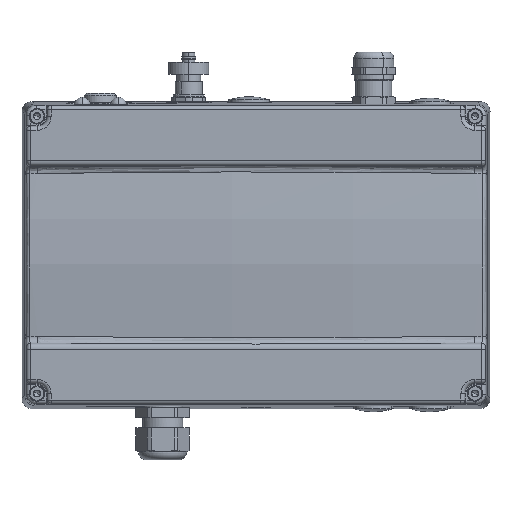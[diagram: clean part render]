
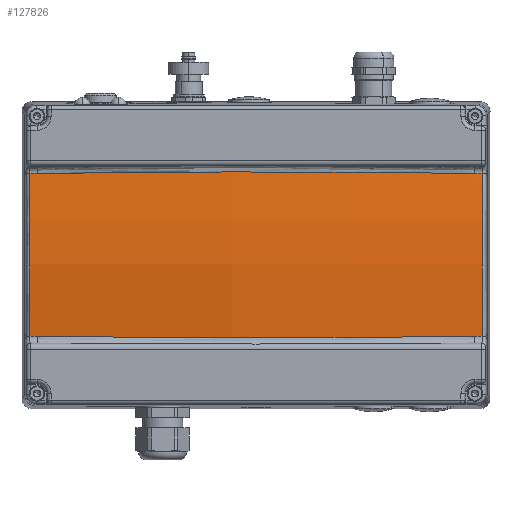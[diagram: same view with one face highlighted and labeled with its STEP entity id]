
A CAD part, top view. The second image highlights one B-rep face of the part: STEP entity #127826.
In plain terms, the highlighted toroidal (fillet/blend) face has major radius 1703.24 mm and minor radius 300 mm.
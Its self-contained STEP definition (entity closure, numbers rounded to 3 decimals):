
#127745=AXIS2_PLACEMENT_3D('Circle Axis2P3D',#127743,#127744,$) ;
#127758=AXIS2_PLACEMENT_3D('Torus Axis2P3D',#127755,#127756,#127757) ;
#127773=AXIS2_PLACEMENT_3D('Circle Axis2P3D',#127771,#127772,$) ;
#127799=AXIS2_PLACEMENT_3D('Circle Axis2P3D',#127797,#127798,$) ;
#127813=AXIS2_PLACEMENT_3D('Circle Axis2P3D',#127811,#127812,$) ;
#127672=CARTESIAN_POINT('Vertex',(-225.157,40.594,75.032)) ;
#127676=CARTESIAN_POINT('Control Point',(-225.157,40.594,75.032)) ;
#127677=CARTESIAN_POINT('Control Point',(-223.825,40.594,75.104)) ;
#127678=CARTESIAN_POINT('Control Point',(-222.493,40.595,75.176)) ;
#127679=CARTESIAN_POINT('Control Point',(-221.161,40.597,75.246)) ;
#127680=CARTESIAN_POINT('Control Point',(-215.558,40.61,75.535)) ;
#127681=CARTESIAN_POINT('Control Point',(-209.954,40.638,75.802)) ;
#127682=CARTESIAN_POINT('Control Point',(-205.682,40.667,75.993)) ;
#127683=CARTESIAN_POINT('Control Point',(-195.001,40.75,76.441)) ;
#127684=CARTESIAN_POINT('Control Point',(-184.318,40.857,76.815)) ;
#127685=CARTESIAN_POINT('Control Point',(-177.907,40.923,77.013)) ;
#127686=CARTESIAN_POINT('Control Point',(-165.084,41.054,77.358)) ;
#127687=CARTESIAN_POINT('Control Point',(-152.26,41.166,77.602)) ;
#127688=CARTESIAN_POINT('Control Point',(-145.847,41.214,77.7)) ;
#127689=CARTESIAN_POINT('Control Point',(-133.021,41.289,77.847)) ;
#127690=CARTESIAN_POINT('Control Point',(-120.195,41.317,77.897)) ;
#127691=CARTESIAN_POINT('Control Point',(-113.782,41.318,77.899)) ;
#127692=CARTESIAN_POINT('Control Point',(-100.956,41.293,77.854)) ;
#127693=CARTESIAN_POINT('Control Point',(-88.131,41.221,77.713)) ;
#127694=CARTESIAN_POINT('Control Point',(-81.719,41.174,77.618)) ;
#127695=CARTESIAN_POINT('Control Point',(-68.896,41.063,77.38)) ;
#127696=CARTESIAN_POINT('Control Point',(-56.075,40.933,77.041)) ;
#127697=CARTESIAN_POINT('Control Point',(-49.665,40.867,76.846)) ;
#127698=CARTESIAN_POINT('Control Point',(-37.454,40.744,76.426)) ;
#127699=CARTESIAN_POINT('Control Point',(-25.244,40.65,75.908)) ;
#127700=CARTESIAN_POINT('Control Point',(-19.443,40.615,75.639)) ;
#127701=CARTESIAN_POINT('Control Point',(-13.642,40.594,75.347)) ;
#127702=CARTESIAN_POINT('Control Point',(-7.842,40.594,75.032)) ;
#127703=CARTESIAN_POINT('Vertex',(-7.842,40.594,75.032)) ;
#127733=CARTESIAN_POINT('Vertex',(-3.909,40.594,74.814)) ;
#127743=CARTESIAN_POINT('Axis2P3D Location',(-116.5,40.594,-1922.5)) ;
#127755=CARTESIAN_POINT('Axis2P3D Location',(-116.5,0.,-1922.5)) ;
#127761=CARTESIAN_POINT('Control Point',(-229.091,-40.594,74.814)) ;
#127762=CARTESIAN_POINT('Control Point',(-228.996,-20.423,77.579)) ;
#127763=CARTESIAN_POINT('Control Point',(-228.963,0.,78.512)) ;
#127764=CARTESIAN_POINT('Control Point',(-228.996,20.423,77.579)) ;
#127765=CARTESIAN_POINT('Control Point',(-229.091,40.594,74.814)) ;
#127766=CARTESIAN_POINT('Vertex',(-229.091,40.594,74.814)) ;
#127768=CARTESIAN_POINT('Vertex',(-229.091,-40.594,74.814)) ;
#127771=CARTESIAN_POINT('Axis2P3D Location',(-116.5,-40.594,-1922.5)) ;
#127775=CARTESIAN_POINT('Vertex',(-225.157,-40.594,75.032)) ;
#127779=CARTESIAN_POINT('Control Point',(-225.157,-40.594,75.032)) ;
#127780=CARTESIAN_POINT('Control Point',(-213.147,-40.594,75.685)) ;
#127781=CARTESIAN_POINT('Control Point',(-201.134,-40.682,76.236)) ;
#127782=CARTESIAN_POINT('Control Point',(-189.119,-40.805,76.692)) ;
#127783=CARTESIAN_POINT('Control Point',(-164.279,-41.074,77.445)) ;
#127784=CARTESIAN_POINT('Control Point',(-139.435,-41.274,77.822)) ;
#127785=CARTESIAN_POINT('Control Point',(-126.608,-41.331,77.92)) ;
#127786=CARTESIAN_POINT('Control Point',(-107.369,-41.329,77.925)) ;
#127787=CARTESIAN_POINT('Control Point',(-88.131,-41.221,77.713)) ;
#127788=CARTESIAN_POINT('Control Point',(-81.719,-41.174,77.618)) ;
#127789=CARTESIAN_POINT('Control Point',(-63.092,-41.013,77.272)) ;
#127790=CARTESIAN_POINT('Control Point',(-44.469,-40.811,76.714)) ;
#127791=CARTESIAN_POINT('Control Point',(-32.258,-40.685,76.254)) ;
#127792=CARTESIAN_POINT('Control Point',(-20.048,-40.594,75.696)) ;
#127793=CARTESIAN_POINT('Control Point',(-7.842,-40.594,75.032)) ;
#127794=CARTESIAN_POINT('Vertex',(-7.842,-40.594,75.032)) ;
#127797=CARTESIAN_POINT('Axis2P3D Location',(-116.5,-40.594,-1922.5)) ;
#127801=CARTESIAN_POINT('Vertex',(-3.909,-40.594,74.814)) ;
#127805=CARTESIAN_POINT('Control Point',(-3.909,-40.594,74.814)) ;
#127806=CARTESIAN_POINT('Control Point',(-4.004,-20.423,77.579)) ;
#127807=CARTESIAN_POINT('Control Point',(-4.037,0.,78.512)) ;
#127808=CARTESIAN_POINT('Control Point',(-4.004,20.423,77.579)) ;
#127809=CARTESIAN_POINT('Control Point',(-3.909,40.594,74.814)) ;
#127811=CARTESIAN_POINT('Axis2P3D Location',(-116.5,40.594,-1922.5)) ;
#127744=DIRECTION('Axis2P3D Direction',(0.,1.,0.)) ;
#127756=DIRECTION('Axis2P3D Direction',(0.,1.,0.)) ;
#127757=DIRECTION('Axis2P3D XDirection',(-0.058,0.,0.998)) ;
#127772=DIRECTION('Axis2P3D Direction',(0.,1.,-0.)) ;
#127798=DIRECTION('Axis2P3D Direction',(0.,1.,-0.)) ;
#127812=DIRECTION('Axis2P3D Direction',(0.,1.,-0.)) ;
#127817=ORIENTED_EDGE('',*,*,#127770,.T.) ;
#127818=ORIENTED_EDGE('',*,*,#127777,.F.) ;
#127819=ORIENTED_EDGE('',*,*,#127796,.F.) ;
#127820=ORIENTED_EDGE('',*,*,#127803,.F.) ;
#127821=ORIENTED_EDGE('',*,*,#127810,.T.) ;
#127822=ORIENTED_EDGE('',*,*,#127747,.T.) ;
#127823=ORIENTED_EDGE('',*,*,#127705,.T.) ;
#127824=ORIENTED_EDGE('',*,*,#127815,.T.) ;
#127826=ADVANCED_FACE('Top cover . ASM sw. Inveor-MA pre-assy - DECKEL MIT DICHTUNG PLK BG-MA.1\\Top cover . MET Inveor-MA - INVEOR MA.1\\PartBody',(#127825),#127759,.T.) ;
#127675=B_SPLINE_CURVE_WITH_KNOTS('',5,(#127676,#127677,#127678,#127679,#127680,#127681,#127682,#127683,#127684,#127685,#127686,#127687,#127688,#127689,#127690,#127691,#127692,#127693,#127694,#127695,#127696,#127697,#127698,#127699,#127700,#127701,#127702),.UNSPECIFIED.,.F.,.U.,(6,3,3,3,3,3,3,3,6),(67.801,76.563,104.655,146.803,188.954,231.104,273.252,315.392,353.542),.UNSPECIFIED.) ;
#127760=B_SPLINE_CURVE_WITH_KNOTS('',4,(#127761,#127762,#127763,#127764,#127765),.UNSPECIFIED.,.F.,.U.,(5,5),(88.371,203.161),.UNSPECIFIED.) ;
#127778=B_SPLINE_CURVE_WITH_KNOTS('',5,(#127779,#127780,#127781,#127782,#127783,#127784,#127785,#127786,#127787,#127788,#127789,#127790,#127791,#127792,#127793),.UNSPECIFIED.,.F.,.U.,(6,3,3,3,6),(67.801,146.803,231.104,273.252,353.542),.UNSPECIFIED.) ;
#127804=B_SPLINE_CURVE_WITH_KNOTS('',4,(#127805,#127806,#127807,#127808,#127809),.UNSPECIFIED.,.F.,.U.,(5,5),(88.371,203.162),.UNSPECIFIED.) ;
#127746=CIRCLE('generated circle',#127745,2000.485) ;
#127774=CIRCLE('generated circle',#127773,2000.485) ;
#127800=CIRCLE('generated circle',#127799,2000.485) ;
#127814=CIRCLE('generated circle',#127813,2000.485) ;
#127759=TOROIDAL_SURFACE('homeo Torus',#127758,1703.244,300.) ;
#127705=EDGE_CURVE('',#127704,#127673,#127675,.F.) ;
#127747=EDGE_CURVE('',#127734,#127704,#127746,.F.) ;
#127770=EDGE_CURVE('',#127767,#127769,#127760,.F.) ;
#127777=EDGE_CURVE('',#127776,#127769,#127774,.F.) ;
#127796=EDGE_CURVE('',#127795,#127776,#127778,.F.) ;
#127803=EDGE_CURVE('',#127802,#127795,#127800,.F.) ;
#127810=EDGE_CURVE('',#127802,#127734,#127804,.T.) ;
#127815=EDGE_CURVE('',#127673,#127767,#127814,.F.) ;
#127816=EDGE_LOOP('',(#127817,#127818,#127819,#127820,#127821,#127822,#127823,#127824)) ;
#127825=FACE_OUTER_BOUND('',#127816,.T.) ;
#127673=VERTEX_POINT('',#127672) ;
#127704=VERTEX_POINT('',#127703) ;
#127734=VERTEX_POINT('',#127733) ;
#127767=VERTEX_POINT('',#127766) ;
#127769=VERTEX_POINT('',#127768) ;
#127776=VERTEX_POINT('',#127775) ;
#127795=VERTEX_POINT('',#127794) ;
#127802=VERTEX_POINT('',#127801) ;
